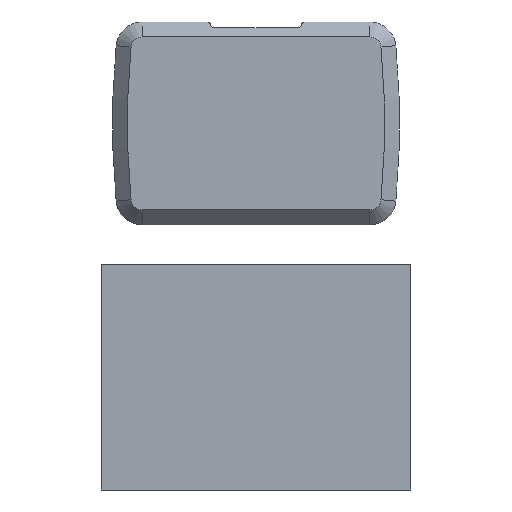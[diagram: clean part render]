
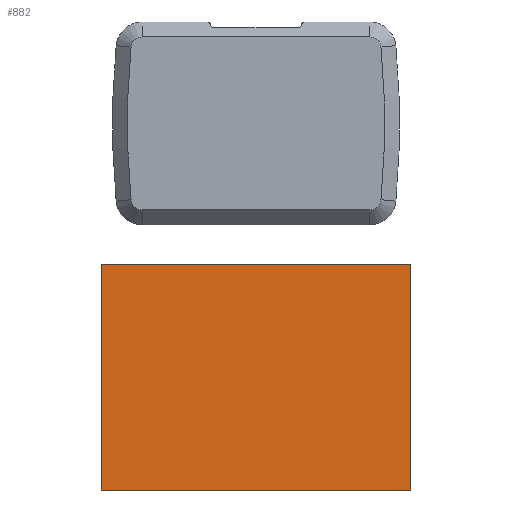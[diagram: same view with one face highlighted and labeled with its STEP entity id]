
A CAD part, front view. The second image highlights one B-rep face of the part: STEP entity #882.
In plain terms, the highlighted planar face has unit normal (0, -1, 0).
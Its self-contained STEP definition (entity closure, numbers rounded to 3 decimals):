
#114 = ORIENTED_EDGE ( 'NONE', *, *, #370, .T. ) ;
#208 = AXIS2_PLACEMENT_3D ( 'NONE', #584, #1462, #466 ) ;
#231 = LINE ( 'NONE', #1534, #1072 ) ;
#241 = CARTESIAN_POINT ( 'NONE',  ( 207.5, -15., 151. ) ) ;
#370 = EDGE_CURVE ( 'NONE', #1052, #1295, #1291, .T. ) ;
#391 = CARTESIAN_POINT ( 'NONE',  ( -207.5, -15., 151. ) ) ;
#430 = EDGE_LOOP ( 'NONE', ( #1296, #114, #1434, #693 ) ) ;
#433 = CARTESIAN_POINT ( 'NONE',  ( -207.5, -15., -151. ) ) ;
#466 = DIRECTION ( 'NONE',  ( 0., 0., 1. ) ) ;
#584 = CARTESIAN_POINT ( 'NONE',  ( -152.716, -15., 101. ) ) ;
#638 = DIRECTION ( 'NONE',  ( -1., 0., 0. ) ) ;
#641 = EDGE_CURVE ( 'NONE', #1295, #1600, #1460, .T. ) ;
#650 = VECTOR ( 'NONE', #638, 1000. ) ;
#693 = ORIENTED_EDGE ( 'NONE', *, *, #719, .T. ) ;
#697 = FACE_OUTER_BOUND ( 'NONE', #430, .T. ) ;
#719 = EDGE_CURVE ( 'NONE', #1600, #1085, #914, .T. ) ;
#882 = ADVANCED_FACE ( 'NONE', ( #697 ), #1079, .F. ) ;
#897 = VECTOR ( 'NONE', #908, 1000. ) ;
#908 = DIRECTION ( 'NONE',  ( 1., 0., 0. ) ) ;
#914 = LINE ( 'NONE', #433, #897 ) ;
#1052 = VERTEX_POINT ( 'NONE', #241 ) ;
#1072 = VECTOR ( 'NONE', #1156, 1000. ) ;
#1079 = PLANE ( 'NONE',  #208 ) ;
#1085 = VERTEX_POINT ( 'NONE', #1621 ) ;
#1114 = VECTOR ( 'NONE', #1270, 1000. ) ;
#1154 = CARTESIAN_POINT ( 'NONE',  ( -207.5, -15., 151. ) ) ;
#1156 = DIRECTION ( 'NONE',  ( 0., 0., 1. ) ) ;
#1215 = EDGE_CURVE ( 'NONE', #1085, #1052, #231, .T. ) ;
#1270 = DIRECTION ( 'NONE',  ( 0., 0., -1. ) ) ;
#1291 = LINE ( 'NONE', #1154, #650 ) ;
#1295 = VERTEX_POINT ( 'NONE', #1435 ) ;
#1296 = ORIENTED_EDGE ( 'NONE', *, *, #1215, .T. ) ;
#1434 = ORIENTED_EDGE ( 'NONE', *, *, #641, .T. ) ;
#1435 = CARTESIAN_POINT ( 'NONE',  ( -207.5, -15., 151. ) ) ;
#1460 = LINE ( 'NONE', #391, #1114 ) ;
#1462 = DIRECTION ( 'NONE',  ( 0., 1., 0. ) ) ;
#1479 = CARTESIAN_POINT ( 'NONE',  ( -207.5, -15., -151. ) ) ;
#1534 = CARTESIAN_POINT ( 'NONE',  ( 207.5, -15., 151. ) ) ;
#1600 = VERTEX_POINT ( 'NONE', #1479 ) ;
#1621 = CARTESIAN_POINT ( 'NONE',  ( 207.5, -15., -151. ) ) ;
